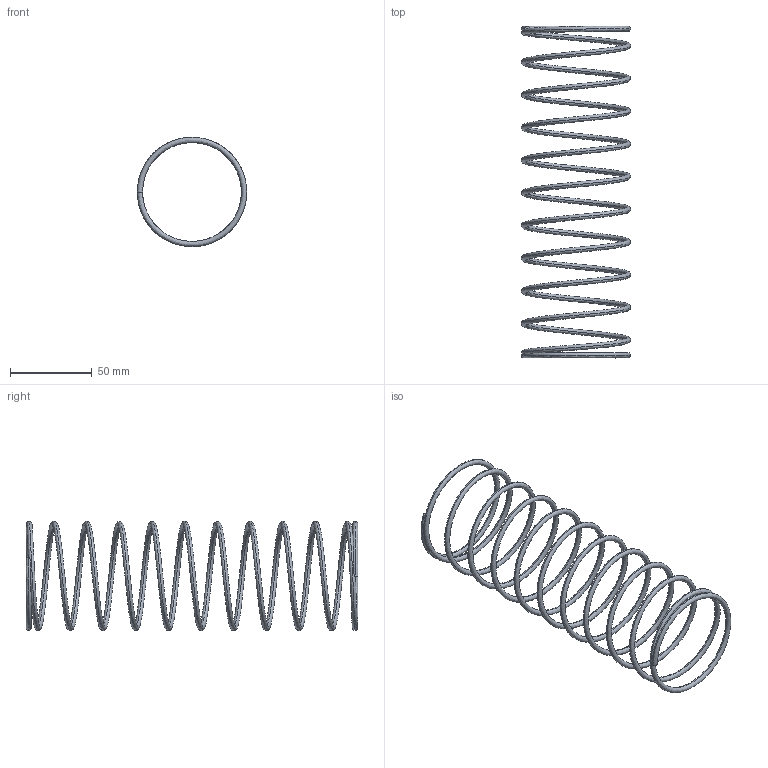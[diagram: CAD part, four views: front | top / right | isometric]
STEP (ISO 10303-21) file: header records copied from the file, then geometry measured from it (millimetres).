
FILE_DESCRIPTION(/* description */ ('Impex Ready, www.impex-ready.pl'),/* implementation_level */ '2;1');
FILE_NAME(/* name */ 'C:\Users\VIKKY\Nextcloud\SM\projekt 10 - części na stronę internetową\Pliki_3D_new\284 Sprężyny SPK\284_Spreżyny_SPK_STEP\SPK60200.ipt.step',/* time_stamp */ '2021-12-17T13:01:14+01:00',/* author */ ('SM'),/* organization */ (''),/* preprocessor_version */ 'ST-DEVELOPER v18.1',/* originating_system */ 'Autodesk Inventor 2021',/* authorisation */ '');
FILE_SCHEMA (('AUTOMOTIVE_DESIGN { 1 0 10303 214 3 1 1 }'));
Length unit declared in the file: millimetre
Products named in the file (1): SPK60200
Bounding box: 66.9 x 203.2 x 66.9 mm (x, y, z)
Volume: 19318.1 mm3; surface area: 24053.4 mm2
Topology: 1 solids, 1 shells, 4 faces, 12 edges, 8 vertices
Faces by surface type: bspline 2, plane 2
Entity records: 3663 total; most frequent: CARTESIAN_POINT 3524, ORIENTED_EDGE 24, EDGE_CURVE 12, DIRECTION 12, B_SPLINE_CURVE_WITH_KNOTS 9, VERTEX_POINT 8, EDGE_LOOP 6, AXIS2_PLACEMENT_3D 6
